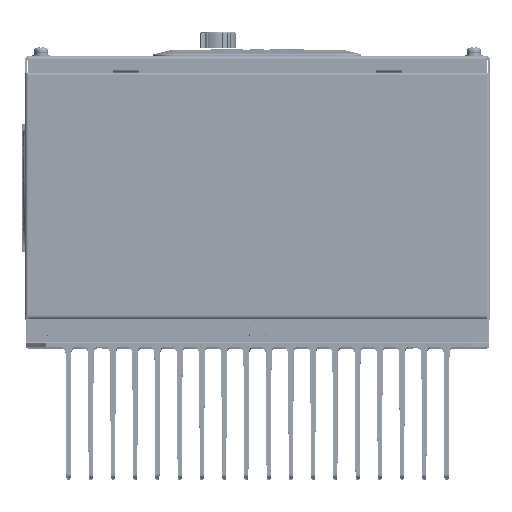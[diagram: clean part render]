
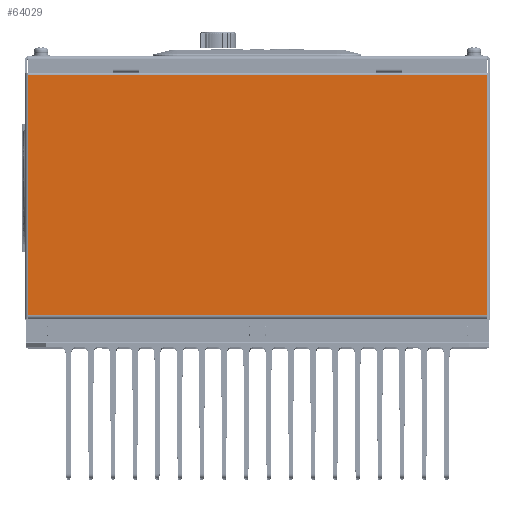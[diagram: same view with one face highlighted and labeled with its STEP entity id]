
A CAD part, top view. The second image highlights one B-rep face of the part: STEP entity #64029.
In plain terms, the highlighted planar face has unit normal (0, 0, 1) as drawn and (1, 0, 0) by its records, which use the part's own axes.
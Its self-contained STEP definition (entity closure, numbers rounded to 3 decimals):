
#48799=DIRECTION('',(0.,1.,0.));
#48800=VECTOR('',#48799,118.9);
#48801=CARTESIAN_POINT('',(189.4,-59.2,1.7));
#48802=LINE('',#48801,#48800);
#48819=DIRECTION('',(0.,0.,1.));
#48820=VECTOR('',#48819,226.6);
#48821=CARTESIAN_POINT('',(189.4,59.7,1.7));
#48822=LINE('',#48821,#48820);
#48982=DIRECTION('',(0.,-1.,0.));
#48983=VECTOR('',#48982,118.9);
#48984=CARTESIAN_POINT('',(189.4,59.7,228.3));
#48985=LINE('',#48984,#48983);
#49947=DIRECTION('',(0.,0.,-1.));
#49948=VECTOR('',#49947,226.6);
#49949=CARTESIAN_POINT('',(189.4,-59.2,228.3));
#49950=LINE('',#49949,#49948);
#58710=CARTESIAN_POINT('',(189.4,-59.2,1.7));
#58711=CARTESIAN_POINT('',(189.4,59.7,1.7));
#58712=VERTEX_POINT('',#58710);
#58713=VERTEX_POINT('',#58711);
#58716=CARTESIAN_POINT('',(189.4,59.7,228.3));
#58717=VERTEX_POINT('',#58716);
#58718=CARTESIAN_POINT('',(189.4,-59.2,228.3));
#58719=VERTEX_POINT('',#58718);
#64015=CARTESIAN_POINT('',(189.4,60.9,0.));
#64016=DIRECTION('',(1.,0.,0.));
#64017=DIRECTION('',(0.,1.,0.));
#64018=AXIS2_PLACEMENT_3D('',#64015,#64016,#64017);
#64019=PLANE('',#64018);
#64021=ORIENTED_EDGE('',*,*,#64020,.F.);
#64022=ORIENTED_EDGE('',*,*,#64002,.F.);
#64024=ORIENTED_EDGE('',*,*,#64023,.F.);
#64026=ORIENTED_EDGE('',*,*,#64025,.F.);
#64027=EDGE_LOOP('',(#64021,#64022,#64024,#64026));
#64028=FACE_OUTER_BOUND('',#64027,.F.);
#64029=ADVANCED_FACE('',(#64028),#64019,.T.);
#64002=EDGE_CURVE('',#58712,#58713,#48802,.T.);
#64020=EDGE_CURVE('',#58713,#58717,#48822,.T.);
#64023=EDGE_CURVE('',#58719,#58712,#49950,.T.);
#64025=EDGE_CURVE('',#58717,#58719,#48985,.T.);
